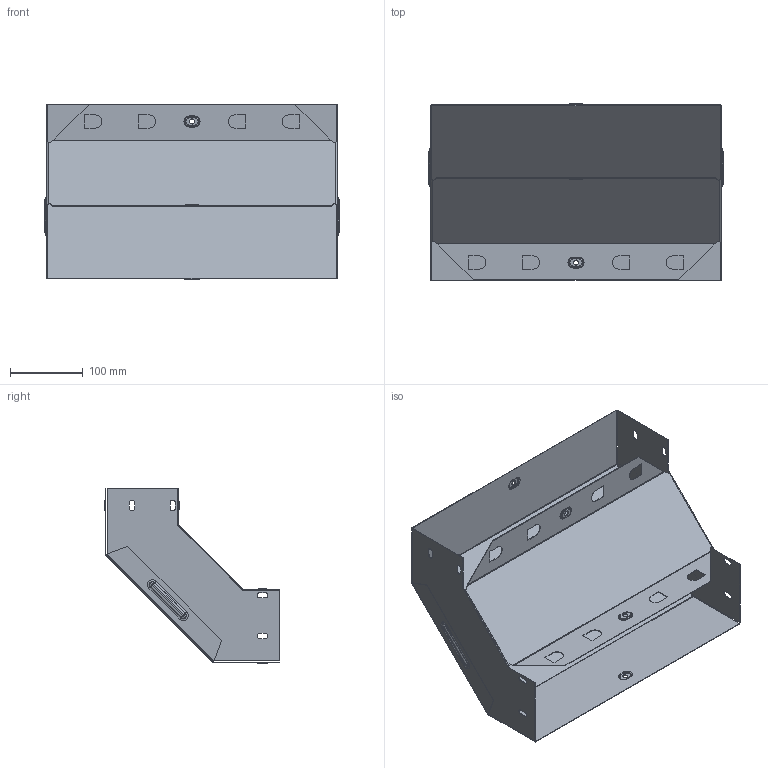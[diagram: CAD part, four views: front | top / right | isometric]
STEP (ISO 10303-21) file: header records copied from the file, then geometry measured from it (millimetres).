
FILE_DESCRIPTION (( 'STEP AP214' ), '1' );
FILE_NAME ('vo90100400_捘.STEP', '2019-06-10T09:06:49', ( '砐錪賧瘔蠈錪 Windows' ), ( '' ), 'SwSTEP 2.0', 'SolidWorks 2018', '' );
FILE_SCHEMA (( 'AUTOMOTIVE_DESIGN' ));
Length unit declared in the file: millimetre
Products named in the file (1): vo90100400_捘
Bounding box: 405.6 x 242.31 x 242.31 mm (x, y, z)
Volume: 247716.7 mm3; surface area: 623248 mm2
Topology: 2 solids, 2 shells, 312 faces, 756 edges, 464 vertices
Faces by surface type: plane 124, cylinder 116, torus 64, bspline 8
Entity records: 9355 total; most frequent: CARTESIAN_POINT 1781, DIRECTION 1646, ORIENTED_EDGE 1512, EDGE_CURVE 756, AXIS2_PLACEMENT_3D 617, VERTEX_POINT 464, LINE 412, VECTOR 412
